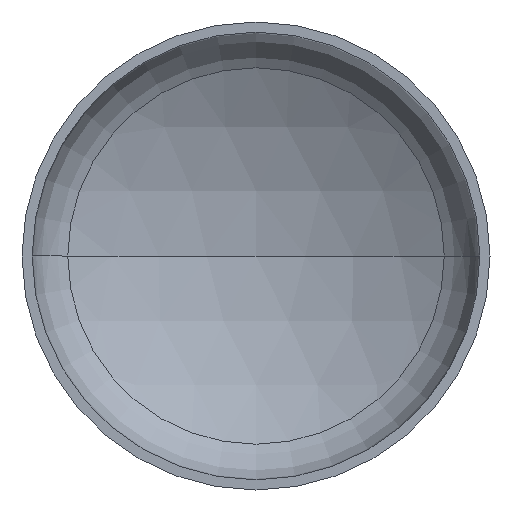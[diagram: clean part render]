
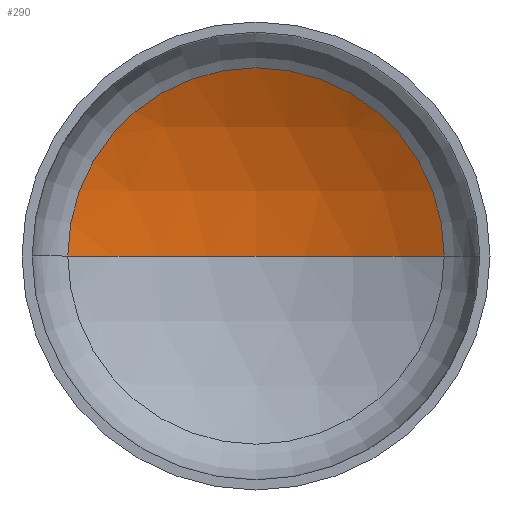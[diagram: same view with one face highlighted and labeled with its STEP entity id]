
A CAD part, front view. The second image highlights one B-rep face of the part: STEP entity #290.
In plain terms, the highlighted spherical face has radius 1360 mm.
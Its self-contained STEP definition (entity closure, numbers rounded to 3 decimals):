
#24 = ORIENTED_EDGE ( 'NONE', *, *, #177, .T. ) ;
#41 = AXIS2_PLACEMENT_3D ( 'NONE', #334, #254, #339 ) ;
#52 = AXIS2_PLACEMENT_3D ( 'NONE', #236, #235, #256 ) ;
#53 = AXIS2_PLACEMENT_3D ( 'NONE', #182, #197, #196 ) ;
#59 = AXIS2_PLACEMENT_3D ( 'NONE', #103, #98, #102 ) ;
#61 = CARTESIAN_POINT ( 'NONE',  ( -683.709, 344.756, 0. ) ) ;
#92 = ORIENTED_EDGE ( 'NONE', *, *, #178, .F. ) ;
#98 = DIRECTION ( 'NONE',  ( 0., -1., 0. ) ) ;
#102 = DIRECTION ( 'NONE',  ( 1., 0., 0. ) ) ;
#103 = CARTESIAN_POINT ( 'NONE',  ( 0., 344.756, 0. ) ) ;
#146 = CARTESIAN_POINT ( 'NONE',  ( 0., 529.11, 0. ) ) ;
#161 = CARTESIAN_POINT ( 'NONE',  ( 683.709, 344.756, 0. ) ) ;
#165 = EDGE_CURVE ( 'NONE', #291, #176, #387, .T. ) ;
#176 = VERTEX_POINT ( 'NONE', #61 ) ;
#177 = EDGE_CURVE ( 'NONE', #271, #291, #322, .T. ) ;
#178 = EDGE_CURVE ( 'NONE', #271, #176, #180, .T. ) ;
#180 = CIRCLE ( 'NONE', #52, 1360. ) ;
#182 = CARTESIAN_POINT ( 'NONE',  ( 0., -830.89, 0. ) ) ;
#196 = DIRECTION ( 'NONE',  ( -1., 0., 0. ) ) ;
#197 = DIRECTION ( 'NONE',  ( 0., 0., -1. ) ) ;
#235 = DIRECTION ( 'NONE',  ( 0., 0., 1. ) ) ;
#236 = CARTESIAN_POINT ( 'NONE',  ( 0., -830.89, 0. ) ) ;
#242 = SPHERICAL_SURFACE ( 'NONE', #41, 1360. ) ;
#254 = DIRECTION ( 'NONE',  ( 0., 0., -1. ) ) ;
#256 = DIRECTION ( 'NONE',  ( 1., 0., 0. ) ) ;
#271 = VERTEX_POINT ( 'NONE', #146 ) ;
#290 = ADVANCED_FACE ( 'NONE', ( #317 ), #242, .F. ) ;
#291 = VERTEX_POINT ( 'NONE', #161 ) ;
#317 = FACE_OUTER_BOUND ( 'NONE', #325, .T. ) ;
#322 = CIRCLE ( 'NONE', #53, 1360. ) ;
#325 = EDGE_LOOP ( 'NONE', ( #92, #24, #383 ) ) ;
#334 = CARTESIAN_POINT ( 'NONE',  ( 0., -830.89, 0. ) ) ;
#339 = DIRECTION ( 'NONE',  ( -1., 0., 0. ) ) ;
#383 = ORIENTED_EDGE ( 'NONE', *, *, #165, .T. ) ;
#387 = CIRCLE ( 'NONE', #59, 683.709 ) ;
